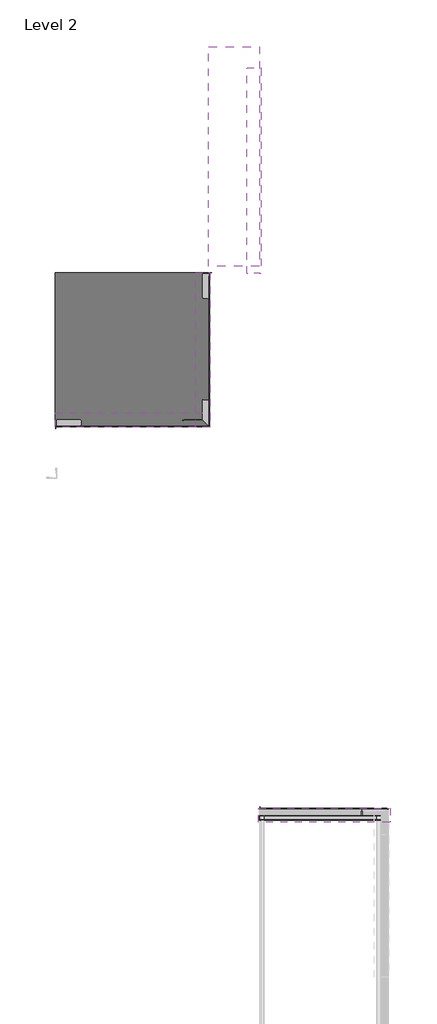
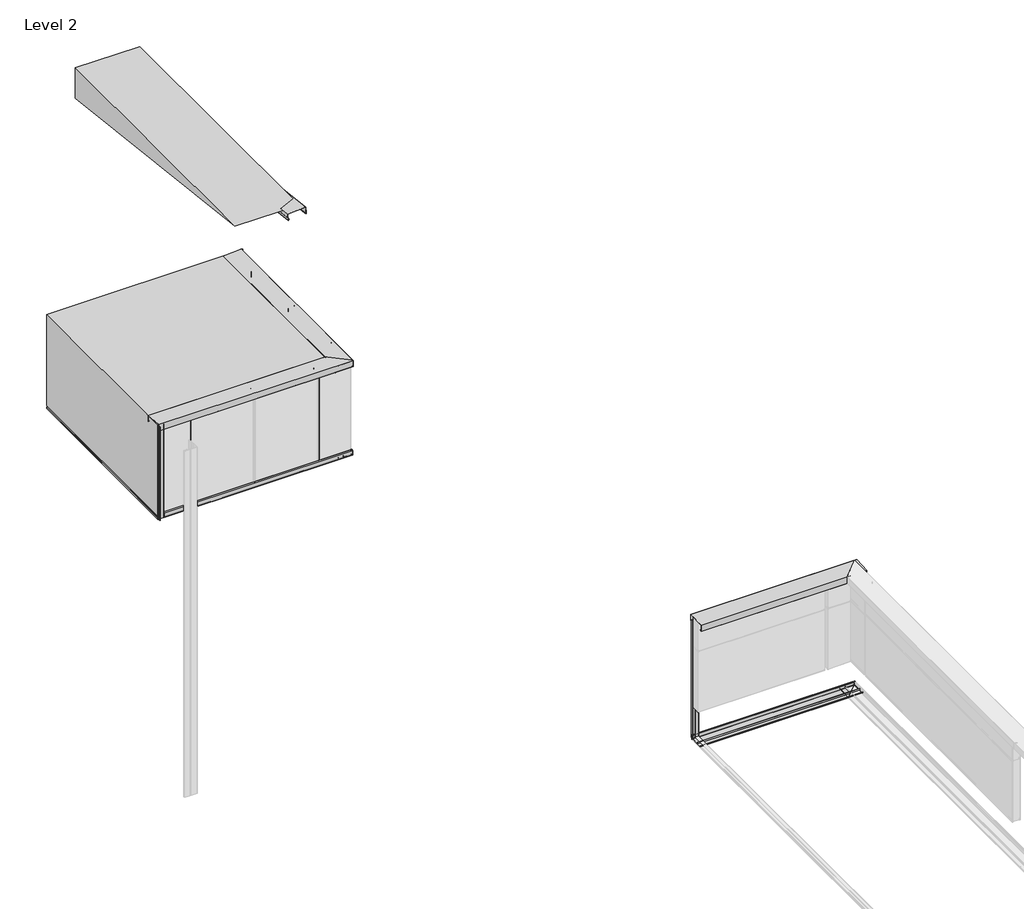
# One storey, part 2 of 2: 12 beams, 2 proxies.
"""IFC4 building model written with IfcOpenShell, lengths in millimetres."""

from ifc_helpers import new_model, si_unit, frame, origin, place, context, project, spatial, polyline, outline, extrude, faceted_brep, transform, mapped, element, save
from components import internal_corner_4af84372, internal_corner_0fc19c92

model = new_model("IFC4")

# Units and contexts
model_context = context("Model", 3, world=origin())
ifc_project = project(units=[si_unit("LENGTHUNIT", "METRE", prefix="MILLI")], contexts=[model_context])

# Site, building, storey
site = spatial("IfcSite", under=ifc_project)
building = spatial("IfcBuilding", under=site)
storey = spatial("IfcBuildingStorey", under=building, Name="Level 2", Elevation=4000.0)

# Beams
placement = place(None, origin())
element("IfcBeam", 1, ObjectType="TE-V-05_01_Internal corner i_BEAM : Internal corner", at=placement, inside=storey, context=model_context, shape_type="SweptSolid", body=[
    extrude(outline(polyline([(-3916.9160895, 951.1599295), (-3912.1538191, 968.9329647), (-3909.4492268, 968.2082714), (-3914.8085749, 948.2069121), (-3989.7155057, 948.2069121), (-3989.7155057, 918.2069121), (-3992.5155057, 918.2069121), (-3992.5155057, 938.6069121), (-3991.7155057, 938.6069121), (-3991.7155057, 919.0069121), (-3990.5155057, 919.0069121), (-3990.5155057, 949.0069121), (-3915.4224364, 949.0069121), (-3910.4290227, 967.6425859), (-3911.5881337, 967.9531688), (-3916.1433489, 950.9528743), (-3916.9160895, 951.1599295)])), frame((0.0, 0.0, 4112.5839075), z_axis=(0.0, 0.0, 1.0), x_axis=(1.0, 0.0, 0.0)), (0.0, 0.0, 1.0), 1537.4160925),
    extrude(outline(polyline([(-3913.653786, 967.2069121), (-3963.1324958, 967.2069121), (-3963.1324958, 968.0069121), (-3912.6112057, 968.0069121), (-3916.6284112, 953.0144971), (-3917.4011518, 953.2215524), (-3913.653786, 967.2069121)])), frame((0.0, 0.0, 4112.5839075), z_axis=(0.0, 0.0, 1.0), x_axis=(1.0, 0.0, 0.0)), (0.0, 0.0, 1.0), 1537.4160925),
])
element("IfcBeam", 2, ObjectType="TE-V-05_01_Internal corner i_BEAM : Internal corner", at=placement, inside=storey, context=model_context, shape_type="SweptSolid", body=[
    extrude(outline(polyline([(3892.407496, 4131.5530174), (3891.6347554, 4131.3459621), (3887.0795402, 4148.3462567), (3885.9204292, 4148.0356738), (3890.9138429, 4129.4), (3966.0069121, 4129.4), (3966.0069121, 4099.4), (3967.2069121, 4099.4), (3967.2069121, 4119.0), (3968.0069121, 4119.0), (3968.0069121, 4098.6), (3965.2069121, 4098.6), (3965.2069121, 4128.6), (3890.2999813, 4128.6), (3884.9406333, 4148.6013592), (3887.6452256, 4149.3260526), (3892.407496, 4131.5530174)])), frame((-3909.4492268, 0.0, 0.0), z_axis=(1.0, 0.0, 0.0), x_axis=(0.0, 1.0, 0.0)), (0.0, 0.0, 1.0), 2915.3337211),
    extrude(outline(polyline([(3889.1451925, 4147.6), (3892.8925583, 4133.6146402), (3892.1198177, 4133.407585), (3888.1026122, 4148.4), (3938.6239023, 4148.4), (3938.6239023, 4147.6), (3889.1451925, 4147.6)])), frame((-3909.4492268, 0.0, 0.0), z_axis=(1.0, 0.0, 0.0), x_axis=(0.0, 1.0, 0.0)), (0.0, 0.0, 1.0), 2915.3337211),
])
element("IfcBeam", 3, ObjectType="TE-V-05_01_Internal corner i_BEAM : Internal corner", at=placement, inside=storey, context=model_context, shape_type="SweptSolid", body=[
    extrude(outline(polyline([(4131.5530174, -3916.9160895), (4131.3459621, -3916.1433489), (4148.3462567, -3911.5881337), (4148.0356738, -3910.4290227), (4129.4, -3915.4224364), (4129.4, -3990.5155057), (4099.4, -3990.5155057), (4099.4, -3991.7155057), (4119.0, -3991.7155057), (4119.0, -3992.5155057), (4098.6, -3992.5155057), (4098.6, -3989.7155057), (4128.6, -3989.7155057), (4128.6, -3914.8085749), (4148.6013592, -3909.4492268), (4149.3260526, -3912.1538191), (4131.5530174, -3916.9160895)])), frame((0.0, 969.6069121, 0.0), z_axis=(0.0, 1.0, 0.0), x_axis=(0.0, 0.0, 1.0)), (0.0, 0.0, 1.0), 3000.0),
    extrude(outline(polyline([(4147.6, -3913.653786), (4133.6146402, -3917.4011518), (4133.407585, -3916.6284112), (4148.4, -3912.6112057), (4148.4, -3963.1324958), (4147.6, -3963.1324958), (4147.6, -3913.653786)])), frame((0.0, 969.6069121, 0.0), z_axis=(0.0, 1.0, 0.0), x_axis=(0.0, 0.0, 1.0)), (0.0, 0.0, 1.0), 3000.0),
])
internal_corner_shape = internal_corner_4af84372(model_context)
element("IfcBeam", 4, ObjectType="TE-V-05_01_Internal corner i_BEAM : Internal corner", at=placement, inside=storey, context=model_context, shape_type="MappedRepresentation", body=[
    mapped(internal_corner_shape, transform((-994.1155057, 3969.6069121, 4900.0), x_axis=(0.0, 0.0, -1.0), y_axis=(0.0, -1.0, 0.0), z_axis=(-1.0, 0.0, 0.0))),
])
internal_corner_2_shape = internal_corner_0fc19c92(model_context)
element("IfcBeam", 5, ObjectType="TE-H-05_02_Internal corner i_BEAM : Internal corner", at=placement, inside=storey, context=model_context, shape_type="MappedRepresentation", body=[
    mapped(internal_corner_2_shape, transform((5.8844943, -6530.3930879, 4650.0), x_axis=(0.0, 0.0, -1.0), y_axis=(1.0, 0.0, 0.0), z_axis=(0.0, -1.0, 0.0))),
])
element("IfcBeam", 6, ObjectType="TE-V-03_01_Top parapet_BEAM : Top parapet", at=placement, inside=storey, context=model_context, shape_type="Brep", body=[
    faceted_brep([(-988.5103325, 3965.2069121, 5587.9605122), (-971.5155057, 3965.2069121, 5570.9656854), (-971.5155057, 3965.2069121, 5669.5784879), (-1246.7155057, 3965.2069121, 5655.1558671), (-1246.7155057, 3965.2069121, 5556.5011383), (-1229.7206788, 3965.2069121, 5573.4959652), (-1229.1549934, 3965.2069121, 5572.9302797), (-1247.5155057, 3965.2069121, 5554.5697675), (-1247.5155057, 3965.2069121, 5655.9150387), (-970.7155057, 3965.2069121, 5670.4215121), (-970.7155057, 3965.2069121, 5569.0343146), (-989.0760179, 3965.2069121, 5587.3948268), (-988.5103325, 946.2069121, 5587.9605122), (-989.0760179, 946.2069121, 5587.3948268), (-970.7155057, 946.2069121, 5569.0343146), (-970.7155057, 946.2069121, 5670.4215121), (-1247.5155057, 946.2069121, 5655.9150387), (-1247.5155057, 946.2069121, 5554.5697675), (-1229.1549934, 946.2069121, 5572.9302797), (-1229.7206788, 946.2069121, 5573.4959652), (-1246.7155057, 946.2069121, 5556.5011383), (-1246.7155057, 946.2069121, 5655.1558671), (-971.5155057, 946.2069121, 5669.5784879), (-971.5155057, 946.2069121, 5570.9656854)], [[[0, 1, 2, 3, 4, 5, 6, 7, 8, 9, 10, 11]], [[12, 13, 14, 15, 16, 17, 18, 19, 20, 21, 22, 23]], [[1, 0, 12, 23]], [[2, 1, 23, 22]], [[3, 2, 22, 21]], [[4, 3, 21, 20]], [[5, 4, 20, 19]], [[6, 5, 19, 18]], [[7, 6, 18, 17]], [[8, 7, 17, 16]], [[9, 8, 16, 15]], [[10, 9, 15, 14]], [[11, 10, 14, 13]], [[0, 11, 13, 12]]]),
    faceted_brep([(-988.5103325, 3965.2069121, 5587.9605122), (-971.5155057, 3965.2069121, 5570.9656854), (-971.5155057, 3965.2069121, 5669.5784879), (-1246.7155057, 3965.2069121, 5655.1558671), (-1246.7155057, 3965.2069121, 5556.5011383), (-1229.7206788, 3965.2069121, 5573.4959652), (-1229.1549934, 3965.2069121, 5572.9302797), (-1247.5155057, 3965.2069121, 5554.5697675), (-1247.5155057, 3965.2069121, 5655.9150387), (-970.7155057, 3965.2069121, 5670.4215121), (-970.7155057, 3965.2069121, 5569.0343146), (-989.0760179, 3965.2069121, 5587.3948268), (-988.5103325, 964.0017389, 5587.9605122), (-971.5155057, 947.0069121, 5570.9656854), (-971.5155057, 947.0069121, 5669.5784879), (-1246.7155057, 1222.2069121, 5655.1558671), (-1246.7155057, 1222.2069121, 5556.5011383), (-1229.7206788, 1205.2120853, 5573.4959652), (-1229.1549934, 1204.6463999, 5572.9302797), (-1247.5155057, 1223.0069121, 5554.5697675), (-1247.5155057, 1223.0069121, 5655.9150387), (-970.7155057, 946.2069121, 5670.4215121), (-970.7155057, 946.2069121, 5569.0343146), (-989.0760179, 964.5674244, 5587.3948268)], [[[0, 1, 2, 3, 4, 5, 6, 7, 8, 9, 10, 11]], [[1, 0, 12, 13]], [[2, 1, 13, 14]], [[3, 2, 14, 15]], [[4, 3, 15, 16]], [[5, 4, 16, 17]], [[6, 5, 17, 18]], [[7, 6, 18, 19]], [[8, 7, 19, 20]], [[9, 8, 20, 21]], [[10, 9, 21, 22]], [[11, 10, 22, 23]], [[0, 11, 23, 12]], [[13, 12, 23, 22, 21, 20, 19, 18, 17, 16, 15, 14]]]),
])
element("IfcBeam", 7, ObjectType="TE-V-03_01_Top parapet_BEAM : Top parapet", at=placement, inside=storey, context=model_context, shape_type="Brep", body=[
    faceted_brep([(-970.7155057, 964.0017389, 5587.9605122), (-970.7155057, 947.0069121, 5570.9656854), (-970.7155057, 947.0069121, 5669.5784879), (-970.7155057, 1222.2069121, 5655.1558671), (-970.7155057, 1222.2069121, 5556.5011383), (-970.7155057, 1205.2120853, 5573.4959652), (-970.7155057, 1204.6463999, 5572.9302797), (-970.7155057, 1223.0069121, 5554.5697675), (-970.7155057, 1223.0069121, 5655.9150387), (-970.7155057, 946.2069121, 5670.4215121), (-970.7155057, 946.2069121, 5569.0343146), (-970.7155057, 964.5674244, 5587.3948268), (-3994.1155057, 964.0017389, 5587.9605122), (-3994.1155057, 964.5674244, 5587.3948268), (-3994.1155057, 946.2069121, 5569.0343146), (-3994.1155057, 946.2069121, 5670.4215121), (-3994.1155057, 1223.0069121, 5655.9150387), (-3994.1155057, 1223.0069121, 5554.5697675), (-3994.1155057, 1204.6463999, 5572.9302797), (-3994.1155057, 1205.2120853, 5573.4959652), (-3994.1155057, 1222.2069121, 5556.5011383), (-3994.1155057, 1222.2069121, 5655.1558671), (-3994.1155057, 947.0069121, 5669.5784879), (-3994.1155057, 947.0069121, 5570.9656854)], [[[0, 1, 2, 3, 4, 5, 6, 7, 8, 9, 10, 11]], [[12, 13, 14, 15, 16, 17, 18, 19, 20, 21, 22, 23]], [[1, 0, 12, 23]], [[2, 1, 23, 22]], [[3, 2, 22, 21]], [[4, 3, 21, 20]], [[5, 4, 20, 19]], [[6, 5, 19, 18]], [[7, 6, 18, 17]], [[8, 7, 17, 16]], [[9, 8, 16, 15]], [[10, 9, 15, 14]], [[11, 10, 14, 13]], [[0, 11, 13, 12]]]),
    faceted_brep([(-3994.1155057, 964.0017389, 5587.9605122), (-3994.1155057, 964.5674244, 5587.3948268), (-3994.1155057, 946.2069121, 5569.0343146), (-3994.1155057, 946.2069121, 5670.4215121), (-3994.1155057, 1223.0069121, 5655.9150387), (-3994.1155057, 1223.0069121, 5554.5697675), (-3994.1155057, 1204.6463999, 5572.9302797), (-3994.1155057, 1205.2120853, 5573.4959652), (-3994.1155057, 1222.2069121, 5556.5011383), (-3994.1155057, 1222.2069121, 5655.1558671), (-3994.1155057, 947.0069121, 5669.5784879), (-3994.1155057, 947.0069121, 5570.9656854), (-989.0760179, 964.5674244, 5587.3948268), (-988.5103325, 964.0017389, 5587.9605122), (-970.7155057, 946.2069121, 5569.0343146), (-970.7155057, 946.2069121, 5670.4215121), (-1247.5155057, 1223.0069121, 5655.9150387), (-1247.5155057, 1223.0069121, 5554.5697675), (-1229.1549934, 1204.6463999, 5572.9302797), (-1229.7206788, 1205.2120853, 5573.4959652), (-1246.7155057, 1222.2069121, 5556.5011383), (-1246.7155057, 1222.2069121, 5655.1558671), (-971.5155057, 947.0069121, 5669.5784879), (-971.5155057, 947.0069121, 5570.9656854)], [[[0, 1, 2, 3, 4, 5, 6, 7, 8, 9, 10, 11]], [[12, 1, 0, 13]], [[14, 2, 1, 12]], [[15, 3, 2, 14]], [[16, 4, 3, 15]], [[17, 5, 4, 16]], [[18, 6, 5, 17]], [[19, 7, 6, 18]], [[20, 8, 7, 19]], [[21, 9, 8, 20]], [[22, 10, 9, 21]], [[23, 11, 10, 22]], [[13, 0, 11, 23]], [[13, 23, 22, 21, 20, 19, 18, 17, 16, 15, 14, 12]]]),
])
element("IfcBeam", 8, ObjectType="TE-H-03_02_Top parapet_BEAM : Top parapet", at=placement, inside=storey, context=model_context, shape_type="Brep", body=[
    faceted_brep([(-17.4280612, -6524.7879147, 5592.9605122), (-17.4280612, -6507.7930879, 5575.9656854), (-17.4280612, -6507.7930879, 5674.5784879), (-17.4280612, -6782.9930879, 5660.1558671), (-17.4280612, -6782.9930879, 5561.5011383), (-17.4280612, -6765.9982611, 5578.4959652), (-17.4280612, -6765.4325756, 5577.9302797), (-17.4280612, -6783.7930879, 5559.5697675), (-17.4280612, -6783.7930879, 5660.9150387), (-17.4280612, -6506.9930879, 5675.4215121), (-17.4280612, -6506.9930879, 5574.0343146), (-17.4280612, -6525.3536001, 5592.3948268), (2560.0499844, -6524.7879147, 5592.9605122), (2560.0499844, -6525.3536001, 5592.3948268), (2560.0499844, -6506.9930879, 5574.0343146), (2560.0499844, -6506.9930879, 5675.4215121), (2560.0499844, -6783.7930879, 5660.9150387), (2560.0499844, -6783.7930879, 5559.5697675), (2560.0499844, -6765.4325756, 5577.9302797), (2560.0499844, -6765.9982611, 5578.4959652), (2560.0499844, -6782.9930879, 5561.5011383), (2560.0499844, -6782.9930879, 5660.1558671), (2560.0499844, -6507.7930879, 5674.5784879), (2560.0499844, -6507.7930879, 5575.9656854)], [[[0, 1, 2, 3, 4, 5, 6, 7, 8, 9, 10, 11]], [[12, 13, 14, 15, 16, 17, 18, 19, 20, 21, 22, 23]], [[1, 0, 12, 23]], [[2, 1, 23, 22]], [[3, 2, 22, 21]], [[4, 3, 21, 20]], [[5, 4, 20, 19]], [[6, 5, 19, 18]], [[7, 6, 18, 17]], [[8, 7, 17, 16]], [[9, 8, 16, 15]], [[10, 9, 15, 14]], [[11, 10, 14, 13]], [[0, 11, 13, 12]]]),
    faceted_brep([(-17.4280612, -6524.7879147, 5592.9605122), (-17.4280612, -6507.7930879, 5575.9656854), (-17.4280612, -6507.7930879, 5674.5784879), (-17.4280612, -6782.9930879, 5660.1558671), (-17.4280612, -6782.9930879, 5561.5011383), (-17.4280612, -6765.9982611, 5578.4959652), (-17.4280612, -6765.4325756, 5577.9302797), (-17.4280612, -6783.7930879, 5559.5697675), (-17.4280612, -6783.7930879, 5660.9150387), (-17.4280612, -6506.9930879, 5675.4215121), (-17.4280612, -6506.9930879, 5574.0343146), (-17.4280612, -6525.3536001, 5592.3948268), (2511.4907648, -6524.7879147, 5592.9605122), (2528.4855916, -6507.7930879, 5575.9656854), (2528.4855916, -6507.7930879, 5674.5784879), (2253.2855916, -6782.9930879, 5660.1558671), (2253.2855916, -6782.9930879, 5561.5011383), (2270.2804184, -6765.9982611, 5578.4959652), (2270.8461039, -6765.4325756, 5577.9302797), (2252.4855916, -6783.7930879, 5559.5697675), (2252.4855916, -6783.7930879, 5660.9150387), (2529.2855916, -6506.9930879, 5675.4215121), (2529.2855916, -6506.9930879, 5574.0343146), (2510.9250794, -6525.3536001, 5592.3948268)], [[[0, 1, 2, 3, 4, 5, 6, 7, 8, 9, 10, 11]], [[1, 0, 12, 13]], [[2, 1, 13, 14]], [[3, 2, 14, 15]], [[4, 3, 15, 16]], [[5, 4, 16, 17]], [[6, 5, 17, 18]], [[7, 6, 18, 19]], [[8, 7, 19, 20]], [[9, 8, 20, 21]], [[10, 9, 21, 22]], [[11, 10, 22, 23]], [[0, 11, 23, 12]], [[13, 12, 23, 22, 21, 20, 19, 18, 17, 16, 15, 14]]]),
])
element("IfcBeam", 9, ObjectType="TE-V-03_01_Top parapet_BEAM : Top parapet", at=placement, inside=storey, context=model_context, shape_type="Brep", body=[
    faceted_brep([(11.4896675, 7962.441298, 5467.2129283), (28.4844943, 7960.4783809, 5450.3318413), (28.4844943, 7971.8682442, 5548.2846659), (-246.7155057, 7970.2024191, 5533.9585701), (-246.7155057, 7958.8077133, 5435.9641), (-229.7206788, 7960.7706304, 5452.8451869), (-229.1549934, 7960.7052932, 5452.2832874), (-247.5155057, 7958.5846383, 5434.0456551), (-247.5155057, 7970.2901041, 5534.712661), (29.2844943, 7971.9656142, 5549.1220479), (29.2844943, 7960.2553059, 5448.4133964), (10.9239821, 7962.3759608, 5466.6510287), (11.4896675, 3946.084948, 5934.2311085), (10.9239821, 3946.0196108, 5933.669209), (29.2844943, 3943.8989559, 5915.4315767), (29.2844943, 3955.6092642, 6016.1402282), (-247.5155057, 3953.9337541, 6001.7308412), (-247.5155057, 3942.2282883, 5901.0638353), (-229.1549934, 3944.3489432, 5919.3014676), (-229.7206788, 3944.4142804, 5919.8633671), (-246.7155057, 3942.4513633, 5902.9822802), (-246.7155057, 3953.8460691, 6000.9767504), (28.4844943, 3955.5118942, 6015.3028461), (28.4844943, 3944.1220309, 5917.3500216)], [[[0, 1, 2, 3, 4, 5, 6, 7, 8, 9, 10, 11]], [[12, 13, 14, 15, 16, 17, 18, 19, 20, 21, 22, 23]], [[1, 0, 12, 23]], [[2, 1, 23, 22]], [[3, 2, 22, 21]], [[4, 3, 21, 20]], [[5, 4, 20, 19]], [[6, 5, 19, 18]], [[7, 6, 18, 17]], [[8, 7, 17, 16]], [[9, 8, 16, 15]], [[10, 9, 15, 14]], [[11, 10, 14, 13]], [[0, 11, 13, 12]]]),
    faceted_brep([(11.4896675, 7962.441298, 5467.2129283), (28.4844943, 7960.4783809, 5450.3318413), (28.4844943, 7971.8682442, 5548.2846659), (-246.7155057, 7970.2024191, 5533.9585701), (-246.7155057, 7958.8077133, 5435.9641), (-229.7206788, 7960.7706304, 5452.8451869), (-229.1549934, 7960.7052932, 5452.2832874), (-247.5155057, 7958.5846383, 5434.0456551), (-247.5155057, 7970.2901041, 5534.712661), (29.2844943, 7971.9656142, 5549.1220479), (29.2844943, 7960.2553059, 5448.4133964), (10.9239821, 7962.3759608, 5466.6510287), (11.4896675, 3964.0017389, 5932.1477607), (28.4844943, 3947.0069121, 5917.0145703), (28.4844943, 3947.0069121, 5942.16), (28.4844943, 3955.5118942, 6015.3028461), (20.0306844, 3955.4607221, 6014.8627658), (-246.7155057, 4222.2069121, 5969.7720012), (-246.7155057, 4222.2069121, 5870.4525652), (-229.7206788, 4205.2120853, 5889.538041), (-229.1549934, 4204.6463999, 5889.0343215), (-247.5155057, 4223.0069121, 5868.4151581), (-247.5155057, 4223.0069121, 5970.4432647), (19.9387136, 3955.5526929, 6015.6537146), (29.2844943, 3955.6092642, 6016.1402282), (29.2844943, 3946.2069121, 5935.28), (29.2844943, 3946.2069121, 5915.1632097), (10.9239821, 3964.5674244, 5931.5124865)], [[[0, 1, 2, 3, 4, 5, 6, 7, 8, 9, 10, 11]], [[1, 0, 12, 13]], [[2, 1, 13, 14, 15]], [[3, 2, 15, 16, 17]], [[4, 3, 17, 18]], [[5, 4, 18, 19]], [[6, 5, 19, 20]], [[7, 6, 20, 21]], [[8, 7, 21, 22]], [[9, 8, 22, 23, 24]], [[10, 9, 24, 25, 26]], [[11, 10, 26, 27]], [[0, 11, 27, 12]], [[25, 24, 23, 16, 15, 14]], [[25, 14, 13, 12, 27, 26]], [[16, 23, 22, 21, 20, 19, 18, 17]]]),
])
element("IfcBeam", 10, ObjectType="TE-H-12_2_ Soffit i_BEAM : soffit", at=placement, inside=storey, context=model_context, shape_type="Brep", body=[
    faceted_brep([(-976.1511787, 948.8966231, 4187.5217497), (-993.1514732, 948.8966231, 4192.0769649), (-992.8408904, 948.8966231, 4193.2360759), (-974.2052166, 948.8966231, 4188.2426622), (-974.2052166, 948.8966231, 4114.5152784), (-991.2000434, 948.8966231, 4131.5101052), (-991.7657288, 948.8966231, 4130.9444198), (-973.4052166, 948.8966231, 4112.5839075), (-973.4052166, 948.8966231, 4188.8565238), (-993.4065758, 948.8966231, 4194.2158718), (-994.1312691, 948.8966231, 4191.5112795), (-976.3582339, 948.8966231, 4186.7490091), (-976.1511787, 3884.9406333, 4187.5217497), (-976.3582339, 3884.9406333, 4186.7490091), (-994.1312691, 3884.9406333, 4191.5112795), (-993.4065758, 3884.9406333, 4194.2158718), (-973.4052166, 3884.9406333, 4188.8565238), (-973.4052166, 3884.9406333, 4112.5839075), (-991.7657288, 3884.9406333, 4130.9444198), (-991.2000434, 3884.9406333, 4131.5101052), (-974.2052166, 3884.9406333, 4114.5152784), (-974.2052166, 3884.9406333, 4188.2426622), (-992.8408904, 3884.9406333, 4193.2360759), (-993.1514732, 3884.9406333, 4192.0769649)], [[[0, 1, 2, 3, 4, 5, 6, 7, 8, 9, 10, 11]], [[12, 13, 14, 15, 16, 17, 18, 19, 20, 21, 22, 23]], [[1, 0, 12, 23]], [[2, 1, 23, 22]], [[3, 2, 22, 21]], [[4, 3, 21, 20]], [[5, 4, 20, 19]], [[6, 5, 19, 18]], [[7, 6, 18, 17]], [[8, 7, 17, 16]], [[9, 8, 16, 15]], [[10, 9, 15, 14]], [[11, 10, 14, 13]], [[0, 11, 13, 12]]]),
    faceted_brep([(-976.1036546, 948.8966231, 4118.4538591), (-990.3629475, 948.8966231, 4132.713152), (-1120.1286329, 948.8966231, 4132.713152), (-1120.1286329, 948.8966231, 4157.713152), (-1122.9286329, 948.8966231, 4157.713152), (-1122.9286329, 948.8966231, 4129.713152), (-1197.2217021, 948.8966231, 4129.713152), (-1202.2151158, 948.8966231, 4148.3488258), (-1201.0560049, 948.8966231, 4148.6594087), (-1196.5007897, 948.8966231, 4131.6591141), (-1195.728049, 948.8966231, 4131.8661694), (-1200.4903194, 948.8966231, 4149.6392046), (-1203.1949117, 948.8966231, 4148.9145113), (-1197.8355637, 948.8966231, 4128.913152), (-1122.1286329, 948.8966231, 4128.913152), (-1122.1286329, 948.8966231, 4156.913152), (-1120.9286329, 948.8966231, 4156.913152), (-1120.9286329, 948.8966231, 4131.913152), (-990.6943183, 948.8966231, 4131.913152), (-976.66934, 948.8966231, 4117.8881737), (-976.1036546, 3884.9406333, 4118.4538591), (-976.66934, 3884.9406333, 4117.8881737), (-990.6943183, 3884.9406333, 4131.913152), (-1120.9286329, 3884.9406333, 4131.913152), (-1120.9286329, 3884.9406333, 4156.913152), (-1122.1286329, 3884.9406333, 4156.913152), (-1122.1286329, 3884.9406333, 4128.913152), (-1197.8355637, 3884.9406333, 4128.913152), (-1203.1949117, 3884.9406333, 4148.9145113), (-1200.4903194, 3884.9406333, 4149.6392046), (-1195.728049, 3884.9406333, 4131.8661694), (-1196.5007897, 3884.9406333, 4131.6591141), (-1201.0560049, 3884.9406333, 4148.6594087), (-1202.2151158, 3884.9406333, 4148.3488258), (-1197.2217021, 3884.9406333, 4129.713152), (-1122.9286329, 3884.9406333, 4129.713152), (-1122.9286329, 3884.9406333, 4157.713152), (-1120.1286329, 3884.9406333, 4157.713152), (-1120.1286329, 3884.9406333, 4132.713152), (-990.3629475, 3884.9406333, 4132.713152)], [[[0, 1, 2, 3, 4, 5, 6, 7, 8, 9, 10, 11, 12, 13, 14, 15, 16, 17, 18, 19]], [[20, 21, 22, 23, 24, 25, 26, 27, 28, 29, 30, 31, 32, 33, 34, 35, 36, 37, 38, 39]], [[1, 0, 20, 39]], [[2, 1, 39, 38]], [[3, 2, 38, 37]], [[4, 3, 37, 36]], [[5, 4, 36, 35]], [[6, 5, 35, 34]], [[7, 6, 34, 33]], [[8, 7, 33, 32]], [[9, 8, 32, 31]], [[10, 9, 31, 30]], [[11, 10, 30, 29]], [[12, 11, 29, 28]], [[13, 12, 28, 27]], [[14, 13, 27, 26]], [[15, 14, 26, 25]], [[16, 15, 25, 24]], [[17, 16, 24, 23]], [[18, 17, 23, 22]], [[19, 18, 22, 21]], [[0, 19, 21, 20]]]),
    faceted_brep([(-976.1511787, 3884.9406333, 4187.5217497), (-976.3582339, 3884.9406333, 4186.7490091), (-994.1312691, 3884.9406333, 4191.5112795), (-993.4065758, 3884.9406333, 4194.2158718), (-973.4052166, 3884.9406333, 4188.8565238), (-973.4052166, 3884.9406333, 4112.5839075), (-991.7657288, 3884.9406333, 4130.9444198), (-991.2000434, 3884.9406333, 4131.5101052), (-974.2052166, 3884.9406333, 4114.5152784), (-974.2052166, 3884.9406333, 4188.2426622), (-992.8408904, 3884.9406333, 4193.2360759), (-993.1514732, 3884.9406333, 4192.0769649), (-976.3582339, 951.8496404, 4186.7490091), (-976.1511787, 951.6425852, 4187.5217497), (-994.1312691, 969.6226756, 4191.5112795), (-993.4065758, 968.8979823, 4194.2158718), (-973.4052166, 948.8966231, 4188.8565238), (-973.4052166, 948.8966231, 4112.5839075), (-991.7657288, 967.2571353, 4130.9444198), (-991.2000434, 966.6914499, 4131.5101052), (-974.2052166, 949.6966231, 4114.5152784), (-974.2052166, 949.6966231, 4188.2426622), (-992.8408904, 968.3322969, 4193.2360759), (-993.1514732, 968.6428797, 4192.0769649)], [[[0, 1, 2, 3, 4, 5, 6, 7, 8, 9, 10, 11]], [[12, 1, 0, 13]], [[14, 2, 1, 12]], [[15, 3, 2, 14]], [[16, 4, 3, 15]], [[17, 5, 4, 16]], [[18, 6, 5, 17]], [[19, 7, 6, 18]], [[20, 8, 7, 19]], [[21, 9, 8, 20]], [[22, 10, 9, 21]], [[23, 11, 10, 22]], [[13, 0, 11, 23]], [[13, 23, 22, 21, 20, 19, 18, 17, 16, 15, 14, 12]]]),
    faceted_brep([(-976.1036546, 3884.9406333, 4118.4538591), (-976.66934, 3884.9406333, 4117.8881737), (-990.6943183, 3884.9406333, 4131.913152), (-1120.9286329, 3884.9406333, 4131.913152), (-1120.9286329, 3884.9406333, 4156.913152), (-1122.1286329, 3884.9406333, 4156.913152), (-1122.1286329, 3884.9406333, 4128.913152), (-1197.8355637, 3884.9406333, 4128.913152), (-1203.1949117, 3884.9406333, 4148.9145113), (-1200.4903194, 3884.9406333, 4149.6392046), (-1195.728049, 3884.9406333, 4131.8661694), (-1196.5007897, 3884.9406333, 4131.6591141), (-1201.0560049, 3884.9406333, 4148.6594087), (-1202.2151158, 3884.9406333, 4148.3488258), (-1197.2217021, 3884.9406333, 4129.713152), (-1122.9286329, 3884.9406333, 4129.713152), (-1122.9286329, 3884.9406333, 4157.713152), (-1120.1286329, 3884.9406333, 4157.713152), (-1120.1286329, 3884.9406333, 4132.713152), (-990.3629475, 3884.9406333, 4132.713152), (-976.66934, 952.1607465, 4117.8881737), (-976.1036546, 951.595061, 4118.4538591), (-990.6943183, 966.1857248, 4131.913152), (-1120.9286329, 1096.4200394, 4131.913152), (-1120.9286329, 1096.4200394, 4156.913152), (-1122.1286329, 1097.6200394, 4156.913152), (-1122.1286329, 1097.6200394, 4128.913152), (-1197.8355637, 1173.3269702, 4128.913152), (-1203.1949117, 1178.6863182, 4148.9145113), (-1200.4903194, 1175.9817259, 4149.6392046), (-1195.728049, 1171.2194555, 4131.8661694), (-1196.5007897, 1171.9921961, 4131.6591141), (-1201.0560049, 1176.5474113, 4148.6594087), (-1202.2151158, 1177.7065223, 4148.3488258), (-1197.2217021, 1172.7131086, 4129.713152), (-1122.9286329, 1098.4200394, 4129.713152), (-1122.9286329, 1098.4200394, 4157.713152), (-1120.1286329, 1095.6200394, 4157.713152), (-1120.1286329, 1095.6200394, 4132.713152), (-990.3629475, 965.8543539, 4132.713152)], [[[0, 1, 2, 3, 4, 5, 6, 7, 8, 9, 10, 11, 12, 13, 14, 15, 16, 17, 18, 19]], [[20, 1, 0, 21]], [[22, 2, 1, 20]], [[23, 3, 2, 22]], [[24, 4, 3, 23]], [[25, 5, 4, 24]], [[26, 6, 5, 25]], [[27, 7, 6, 26]], [[28, 8, 7, 27]], [[29, 9, 8, 28]], [[30, 10, 9, 29]], [[31, 11, 10, 30]], [[32, 12, 11, 31]], [[33, 13, 12, 32]], [[34, 14, 13, 33]], [[35, 15, 14, 34]], [[36, 16, 15, 35]], [[37, 17, 16, 36]], [[38, 18, 17, 37]], [[39, 19, 18, 38]], [[21, 0, 19, 39]], [[21, 39, 38, 37, 36, 35, 34, 33, 32, 31, 30, 29, 28, 27, 26, 25, 24, 23, 22, 20]]]),
])
element("IfcBeam", 11, ObjectType="TE-H-12_2_ Soffit i_BEAM : soffit", at=placement, inside=storey, context=model_context, shape_type="Brep", body=[
    faceted_brep([(-3909.4492268, 951.6425852, 4187.5217497), (-3909.4492268, 968.6428797, 4192.0769649), (-3909.4492268, 968.3322969, 4193.2360759), (-3909.4492268, 949.6966231, 4188.2426622), (-3909.4492268, 949.6966231, 4114.5152784), (-3909.4492268, 966.6914499, 4131.5101052), (-3909.4492268, 967.2571353, 4130.9444198), (-3909.4492268, 948.8966231, 4112.5839075), (-3909.4492268, 948.8966231, 4188.8565238), (-3909.4492268, 968.8979823, 4194.2158718), (-3909.4492268, 969.6226756, 4191.5112795), (-3909.4492268, 951.8496404, 4186.7490091), (-973.4052166, 951.6425852, 4187.5217497), (-973.4052166, 951.8496404, 4186.7490091), (-973.4052166, 969.6226756, 4191.5112795), (-973.4052166, 968.8979823, 4194.2158718), (-973.4052166, 948.8966231, 4188.8565238), (-973.4052166, 948.8966231, 4112.5839075), (-973.4052166, 967.2571353, 4130.9444198), (-973.4052166, 966.6914499, 4131.5101052), (-973.4052166, 949.6966231, 4114.5152784), (-973.4052166, 949.6966231, 4188.2426622), (-973.4052166, 968.3322969, 4193.2360759), (-973.4052166, 968.6428797, 4192.0769649)], [[[0, 1, 2, 3, 4, 5, 6, 7, 8, 9, 10, 11]], [[12, 13, 14, 15, 16, 17, 18, 19, 20, 21, 22, 23]], [[1, 0, 12, 23]], [[2, 1, 23, 22]], [[3, 2, 22, 21]], [[4, 3, 21, 20]], [[5, 4, 20, 19]], [[6, 5, 19, 18]], [[7, 6, 18, 17]], [[8, 7, 17, 16]], [[9, 8, 16, 15]], [[10, 9, 15, 14]], [[11, 10, 14, 13]], [[0, 11, 13, 12]]]),
    faceted_brep([(-3909.4492268, 951.595061, 4118.4538591), (-3909.4492268, 965.8543539, 4132.713152), (-3909.4492268, 1095.6200394, 4132.713152), (-3909.4492268, 1095.6200394, 4157.713152), (-3909.4492268, 1098.4200394, 4157.713152), (-3909.4492268, 1098.4200394, 4129.713152), (-3909.4492268, 1172.7131086, 4129.713152), (-3909.4492268, 1177.7065223, 4148.3488258), (-3909.4492268, 1176.5474113, 4148.6594087), (-3909.4492268, 1171.9921961, 4131.6591141), (-3909.4492268, 1171.2194555, 4131.8661694), (-3909.4492268, 1175.9817259, 4149.6392046), (-3909.4492268, 1178.6863182, 4148.9145113), (-3909.4492268, 1173.3269702, 4128.913152), (-3909.4492268, 1097.6200394, 4128.913152), (-3909.4492268, 1097.6200394, 4156.913152), (-3909.4492268, 1096.4200394, 4156.913152), (-3909.4492268, 1096.4200394, 4131.913152), (-3909.4492268, 966.1857248, 4131.913152), (-3909.4492268, 952.1607465, 4117.8881737), (-973.4052166, 951.595061, 4118.4538591), (-973.4052166, 952.1607465, 4117.8881737), (-973.4052166, 966.1857248, 4131.913152), (-973.4052166, 1096.4200394, 4131.913152), (-973.4052166, 1096.4200394, 4156.913152), (-973.4052166, 1097.6200394, 4156.913152), (-973.4052166, 1097.6200394, 4128.913152), (-973.4052166, 1173.3269702, 4128.913152), (-973.4052166, 1178.6863182, 4148.9145113), (-973.4052166, 1175.9817259, 4149.6392046), (-973.4052166, 1171.2194555, 4131.8661694), (-973.4052166, 1171.9921961, 4131.6591141), (-973.4052166, 1176.5474113, 4148.6594087), (-973.4052166, 1177.7065223, 4148.3488258), (-973.4052166, 1172.7131086, 4129.713152), (-973.4052166, 1098.4200394, 4129.713152), (-973.4052166, 1098.4200394, 4157.713152), (-973.4052166, 1095.6200394, 4157.713152), (-973.4052166, 1095.6200394, 4132.713152), (-973.4052166, 965.8543539, 4132.713152)], [[[0, 1, 2, 3, 4, 5, 6, 7, 8, 9, 10, 11, 12, 13, 14, 15, 16, 17, 18, 19]], [[20, 21, 22, 23, 24, 25, 26, 27, 28, 29, 30, 31, 32, 33, 34, 35, 36, 37, 38, 39]], [[1, 0, 20, 39]], [[2, 1, 39, 38]], [[3, 2, 38, 37]], [[4, 3, 37, 36]], [[5, 4, 36, 35]], [[6, 5, 35, 34]], [[7, 6, 34, 33]], [[8, 7, 33, 32]], [[9, 8, 32, 31]], [[10, 9, 31, 30]], [[11, 10, 30, 29]], [[12, 11, 29, 28]], [[13, 12, 28, 27]], [[14, 13, 27, 26]], [[15, 14, 26, 25]], [[16, 15, 25, 24]], [[17, 16, 24, 23]], [[18, 17, 23, 22]], [[19, 18, 22, 21]], [[0, 19, 21, 20]]]),
    faceted_brep([(-3909.4492268, 951.6425852, 4187.5217497), (-3909.4492268, 968.6428797, 4192.0769649), (-3909.4492268, 968.3322969, 4193.2360759), (-3909.4492268, 949.6966231, 4188.2426622), (-3909.4492268, 949.6966231, 4114.5152784), (-3909.4492268, 966.6914499, 4131.5101052), (-3909.4492268, 967.2571353, 4130.9444198), (-3909.4492268, 948.8966231, 4112.5839075), (-3909.4492268, 948.8966231, 4188.8565238), (-3909.4492268, 968.8979823, 4194.2158718), (-3909.4492268, 969.6226756, 4191.5112795), (-3909.4492268, 951.8496404, 4186.7490091), (-976.1511787, 951.6425852, 4187.5217497), (-993.1514732, 968.6428797, 4192.0769649), (-992.8408904, 968.3322969, 4193.2360759), (-974.2052166, 949.6966231, 4188.2426622), (-974.2052166, 949.6966231, 4114.5152784), (-991.2000434, 966.6914499, 4131.5101052), (-991.7657288, 967.2571353, 4130.9444198), (-973.4052166, 948.8966231, 4112.5839075), (-973.4052166, 948.8966231, 4188.8565238), (-993.4065758, 968.8979823, 4194.2158718), (-994.1312691, 969.6226756, 4191.5112795), (-976.3582339, 951.8496404, 4186.7490091)], [[[0, 1, 2, 3, 4, 5, 6, 7, 8, 9, 10, 11]], [[1, 0, 12, 13]], [[2, 1, 13, 14]], [[3, 2, 14, 15]], [[4, 3, 15, 16]], [[5, 4, 16, 17]], [[6, 5, 17, 18]], [[7, 6, 18, 19]], [[8, 7, 19, 20]], [[9, 8, 20, 21]], [[10, 9, 21, 22]], [[11, 10, 22, 23]], [[0, 11, 23, 12]], [[13, 12, 23, 22, 21, 20, 19, 18, 17, 16, 15, 14]]]),
    faceted_brep([(-3909.4492268, 951.595061, 4118.4538591), (-3909.4492268, 965.8543539, 4132.713152), (-3909.4492268, 1095.6200394, 4132.713152), (-3909.4492268, 1095.6200394, 4157.713152), (-3909.4492268, 1098.4200394, 4157.713152), (-3909.4492268, 1098.4200394, 4129.713152), (-3909.4492268, 1172.7131086, 4129.713152), (-3909.4492268, 1177.7065223, 4148.3488258), (-3909.4492268, 1176.5474113, 4148.6594087), (-3909.4492268, 1171.9921961, 4131.6591141), (-3909.4492268, 1171.2194555, 4131.8661694), (-3909.4492268, 1175.9817259, 4149.6392046), (-3909.4492268, 1178.6863182, 4148.9145113), (-3909.4492268, 1173.3269702, 4128.913152), (-3909.4492268, 1097.6200394, 4128.913152), (-3909.4492268, 1097.6200394, 4156.913152), (-3909.4492268, 1096.4200394, 4156.913152), (-3909.4492268, 1096.4200394, 4131.913152), (-3909.4492268, 966.1857248, 4131.913152), (-3909.4492268, 952.1607465, 4117.8881737), (-976.1036546, 951.595061, 4118.4538591), (-990.3629475, 965.8543539, 4132.713152), (-1120.1286329, 1095.6200394, 4132.713152), (-1120.1286329, 1095.6200394, 4157.713152), (-1122.9286329, 1098.4200394, 4157.713152), (-1122.9286329, 1098.4200394, 4129.713152), (-1197.2217021, 1172.7131086, 4129.713152), (-1202.2151158, 1177.7065223, 4148.3488258), (-1201.0560049, 1176.5474113, 4148.6594087), (-1196.5007897, 1171.9921961, 4131.6591141), (-1195.728049, 1171.2194555, 4131.8661694), (-1200.4903194, 1175.9817259, 4149.6392046), (-1203.1949117, 1178.6863182, 4148.9145113), (-1197.8355637, 1173.3269702, 4128.913152), (-1122.1286329, 1097.6200394, 4128.913152), (-1122.1286329, 1097.6200394, 4156.913152), (-1120.9286329, 1096.4200394, 4156.913152), (-1120.9286329, 1096.4200394, 4131.913152), (-990.6943183, 966.1857248, 4131.913152), (-976.66934, 952.1607465, 4117.8881737)], [[[0, 1, 2, 3, 4, 5, 6, 7, 8, 9, 10, 11, 12, 13, 14, 15, 16, 17, 18, 19]], [[1, 0, 20, 21]], [[2, 1, 21, 22]], [[3, 2, 22, 23]], [[4, 3, 23, 24]], [[5, 4, 24, 25]], [[6, 5, 25, 26]], [[7, 6, 26, 27]], [[8, 7, 27, 28]], [[9, 8, 28, 29]], [[10, 9, 29, 30]], [[11, 10, 30, 31]], [[12, 11, 31, 32]], [[13, 12, 32, 33]], [[14, 13, 33, 34]], [[15, 14, 34, 35]], [[16, 15, 35, 36]], [[17, 16, 36, 37]], [[18, 17, 37, 38]], [[19, 18, 38, 39]], [[0, 19, 39, 20]], [[21, 20, 39, 38, 37, 36, 35, 34, 33, 32, 31, 30, 29, 28, 27, 26, 25, 24, 23, 22]]]),
])
element("IfcBeam", 12, ObjectType="TE-H-12_2_ Soffit i_BEAM : soffit", at=placement, inside=storey, context=model_context, shape_type="Brep", body=[
    faceted_brep([(2526.5947834, -6512.4287609, 3687.5217497), (2526.5947834, -6529.4290555, 3692.0769649), (2526.5947834, -6529.1184726, 3693.2360759), (2526.5947834, -6510.4827988, 3688.2426622), (2526.5947834, -6510.4827988, 3614.5152784), (2526.5947834, -6527.4776256, 3631.5101052), (2526.5947834, -6528.043311, 3630.9444198), (2526.5947834, -6509.6827988, 3612.5839075), (2526.5947834, -6509.6827988, 3688.8565238), (2526.5947834, -6529.684158, 3694.2158718), (2526.5947834, -6530.4088514, 3691.5112795), (2526.5947834, -6512.6358162, 3686.7490091), (-2.6230637, -6512.4287609, 3687.5217497), (-2.6230637, -6512.6358162, 3686.7490091), (-2.6230637, -6530.4088514, 3691.5112795), (-2.6230637, -6529.684158, 3694.2158718), (-2.6230637, -6509.6827988, 3688.8565238), (-2.6230637, -6509.6827988, 3612.5839075), (-2.6230637, -6528.043311, 3630.9444198), (-2.6230637, -6527.4776256, 3631.5101052), (-2.6230637, -6510.4827988, 3614.5152784), (-2.6230637, -6510.4827988, 3688.2426622), (-2.6230637, -6529.1184726, 3693.2360759), (-2.6230637, -6529.4290555, 3692.0769649)], [[[0, 1, 2, 3, 4, 5, 6, 7, 8, 9, 10, 11]], [[12, 13, 14, 15, 16, 17, 18, 19, 20, 21, 22, 23]], [[1, 0, 12, 23]], [[2, 1, 23, 22]], [[3, 2, 22, 21]], [[4, 3, 21, 20]], [[5, 4, 20, 19]], [[6, 5, 19, 18]], [[7, 6, 18, 17]], [[8, 7, 17, 16]], [[9, 8, 16, 15]], [[10, 9, 15, 14]], [[11, 10, 14, 13]], [[0, 11, 13, 12]]]),
    faceted_brep([(2526.5947834, -6512.3812368, 3618.4538591), (2526.5947834, -6526.6405297, 3632.713152), (2526.5947834, -6656.4062151, 3632.713152), (2526.5947834, -6656.4062151, 3657.713152), (2526.5947834, -6659.2062151, 3657.713152), (2526.5947834, -6659.2062151, 3629.713152), (2526.5947834, -6733.4992843, 3629.713152), (2526.5947834, -6738.4926981, 3648.3488258), (2526.5947834, -6737.3335871, 3648.6594087), (2526.5947834, -6732.7783719, 3631.6591141), (2526.5947834, -6732.0056312, 3631.8661694), (2526.5947834, -6736.7679016, 3649.6392046), (2526.5947834, -6739.472494, 3648.9145113), (2526.5947834, -6734.1131459, 3628.913152), (2526.5947834, -6658.4062151, 3628.913152), (2526.5947834, -6658.4062151, 3656.913152), (2526.5947834, -6657.2062151, 3656.913152), (2526.5947834, -6657.2062151, 3631.913152), (2526.5947834, -6526.9719005, 3631.913152), (2526.5947834, -6512.9469222, 3617.8881737), (-2.6230637, -6512.3812368, 3618.4538591), (-2.6230637, -6512.9469222, 3617.8881737), (-2.6230637, -6526.9719005, 3631.913152), (-2.6230637, -6657.2062151, 3631.913152), (-2.6230637, -6657.2062151, 3656.913152), (-2.6230637, -6658.4062151, 3656.913152), (-2.6230637, -6658.4062151, 3628.913152), (-2.6230637, -6734.1131459, 3628.913152), (-2.6230637, -6739.472494, 3648.9145113), (-2.6230637, -6736.7679016, 3649.6392046), (-2.6230637, -6732.0056312, 3631.8661694), (-2.6230637, -6732.7783719, 3631.6591141), (-2.6230637, -6737.3335871, 3648.6594087), (-2.6230637, -6738.4926981, 3648.3488258), (-2.6230637, -6733.4992843, 3629.713152), (-2.6230637, -6659.2062151, 3629.713152), (-2.6230637, -6659.2062151, 3657.713152), (-2.6230637, -6656.4062151, 3657.713152), (-2.6230637, -6656.4062151, 3632.713152), (-2.6230637, -6526.6405297, 3632.713152)], [[[0, 1, 2, 3, 4, 5, 6, 7, 8, 9, 10, 11, 12, 13, 14, 15, 16, 17, 18, 19]], [[20, 21, 22, 23, 24, 25, 26, 27, 28, 29, 30, 31, 32, 33, 34, 35, 36, 37, 38, 39]], [[1, 0, 20, 39]], [[2, 1, 39, 38]], [[3, 2, 38, 37]], [[4, 3, 37, 36]], [[5, 4, 36, 35]], [[6, 5, 35, 34]], [[7, 6, 34, 33]], [[8, 7, 33, 32]], [[9, 8, 32, 31]], [[10, 9, 31, 30]], [[11, 10, 30, 29]], [[12, 11, 29, 28]], [[13, 12, 28, 27]], [[14, 13, 27, 26]], [[15, 14, 26, 25]], [[16, 15, 25, 24]], [[17, 16, 24, 23]], [[18, 17, 23, 22]], [[19, 18, 22, 21]], [[0, 19, 21, 20]]]),
    faceted_brep([(-2.6230637, -6512.4287609, 3687.5217497), (-2.6230637, -6512.6358162, 3686.7490091), (-2.6230637, -6530.4088514, 3691.5112795), (-2.6230637, -6529.684158, 3694.2158718), (-2.6230637, -6509.6827988, 3688.8565238), (-2.6230637, -6509.6827988, 3612.5839075), (-2.6230637, -6528.043311, 3630.9444198), (-2.6230637, -6527.4776256, 3631.5101052), (-2.6230637, -6510.4827988, 3614.5152784), (-2.6230637, -6510.4827988, 3688.2426622), (-2.6230637, -6529.1184726, 3693.2360759), (-2.6230637, -6529.4290555, 3692.0769649), (2523.6428633, -6512.6358162, 3686.7490091), (2523.8499186, -6512.4287609, 3687.5217497), (2505.8698281, -6530.4088514, 3691.5112795), (2506.5945215, -6529.684158, 3694.2158718), (2526.5947834, -6509.6827988, 3688.8565238), (2526.5947834, -6509.6827988, 3612.5839075), (2508.2353684, -6528.043311, 3630.9444198), (2508.8010539, -6527.4776256, 3631.5101052), (2525.7958807, -6510.4827988, 3614.5152784), (2525.7958807, -6510.4827988, 3688.2426622), (2507.1602069, -6529.1184726, 3693.2360759), (2506.849624, -6529.4290555, 3692.0769649)], [[[0, 1, 2, 3, 4, 5, 6, 7, 8, 9, 10, 11]], [[12, 1, 0, 13]], [[14, 2, 1, 12]], [[15, 3, 2, 14]], [[16, 4, 3, 15]], [[17, 5, 4, 16]], [[18, 6, 5, 17]], [[19, 7, 6, 18]], [[20, 8, 7, 19]], [[21, 9, 8, 20]], [[22, 10, 9, 21]], [[23, 11, 10, 22]], [[13, 0, 11, 23]], [[13, 23, 22, 21, 20, 19, 18, 17, 16, 15, 14, 12]]]),
    faceted_brep([(-2.6230637, -6512.3812368, 3618.4538591), (-2.6230637, -6512.9469222, 3617.8881737), (-2.6230637, -6526.9719005, 3631.913152), (-2.6230637, -6657.2062151, 3631.913152), (-2.6230637, -6657.2062151, 3656.913152), (-2.6230637, -6658.4062151, 3656.913152), (-2.6230637, -6658.4062151, 3628.913152), (-2.6230637, -6734.1131459, 3628.913152), (-2.6230637, -6739.472494, 3648.9145113), (-2.6230637, -6736.7679016, 3649.6392046), (-2.6230637, -6732.0056312, 3631.8661694), (-2.6230637, -6732.7783719, 3631.6591141), (-2.6230637, -6737.3335871, 3648.6594087), (-2.6230637, -6738.4926981, 3648.3488258), (-2.6230637, -6733.4992843, 3629.713152), (-2.6230637, -6659.2062151, 3629.713152), (-2.6230637, -6659.2062151, 3657.713152), (-2.6230637, -6656.4062151, 3657.713152), (-2.6230637, -6656.4062151, 3632.713152), (-2.6230637, -6526.6405297, 3632.713152), (2523.3317573, -6512.9469222, 3617.8881737), (2523.8974427, -6512.3812368, 3618.4538591), (2509.306779, -6526.9719005, 3631.913152), (2379.0724644, -6657.2062151, 3631.913152), (2379.0724644, -6657.2062151, 3656.913152), (2377.8724644, -6658.4062151, 3656.913152), (2377.8724644, -6658.4062151, 3628.913152), (2302.1655336, -6734.1131459, 3628.913152), (2296.8061855, -6739.472494, 3648.9145113), (2299.5107778, -6736.7679016, 3649.6392046), (2304.2730483, -6732.0056312, 3631.8661694), (2303.5003076, -6732.7783719, 3631.6591141), (2298.9450924, -6737.3335871, 3648.6594087), (2297.7859814, -6738.4926981, 3648.3488258), (2302.7793952, -6733.4992843, 3629.713152), (2377.0724644, -6659.2062151, 3629.713152), (2377.0724644, -6659.2062151, 3657.713152), (2379.8724644, -6656.4062151, 3657.713152), (2379.8724644, -6656.4062151, 3632.713152), (2509.6381498, -6526.6405297, 3632.713152)], [[[0, 1, 2, 3, 4, 5, 6, 7, 8, 9, 10, 11, 12, 13, 14, 15, 16, 17, 18, 19]], [[20, 1, 0, 21]], [[22, 2, 1, 20]], [[23, 3, 2, 22]], [[24, 4, 3, 23]], [[25, 5, 4, 24]], [[26, 6, 5, 25]], [[27, 7, 6, 26]], [[28, 8, 7, 27]], [[29, 9, 8, 28]], [[30, 10, 9, 29]], [[31, 11, 10, 30]], [[32, 12, 11, 31]], [[33, 13, 12, 32]], [[34, 14, 13, 33]], [[35, 15, 14, 34]], [[36, 16, 15, 35]], [[37, 17, 16, 36]], [[38, 18, 17, 37]], [[39, 19, 18, 38]], [[21, 0, 19, 39]], [[21, 39, 38, 37, 36, 35, 34, 33, 32, 31, 30, 29, 28, 27, 26, 25, 24, 23, 22, 20]]]),
])

# Proxies
element("IfcBuildingElementProxy", 13, Name="Mass 1 : Mass 1", ObjectType="Mass 1 : Mass 1", at=placement, inside=storey, context=model_context, shape_type="SweptSolid", body=[
    extrude(outline(polyline([(-994.1155057, 3969.6069121), (-994.1155057, 969.6069121), (-3994.1155057, 969.6069121), (-3994.1155057, 3969.6069121), (-994.1155057, 3969.6069121)])), frame((0.0, 0.0, 4150.0), z_axis=(0.0, 0.0, 1.0), x_axis=(1.0, 0.0, 0.0)), (0.0, 0.0, 1.0), 1500.0),
])
element("IfcBuildingElementProxy", 14, Name="Mass 2 : Mass 2", ObjectType="Mass 2 : Mass 2", at=placement, inside=storey, context=model_context, shape_type="SweptSolid", body=[
    extrude(outline(polyline([(4089.6069121, 5980.0), (8389.6069121, 5980.0), (8389.6069121, 5480.0), (4089.6069121, 5980.0)])), frame((-994.1155057, 0.0, 0.0), z_axis=(1.0, 0.0, 0.0), x_axis=(0.0, 1.0, 0.0)), (0.0, 0.0, 1.0), 1000.0),
])

save(model, "model.ifc")
